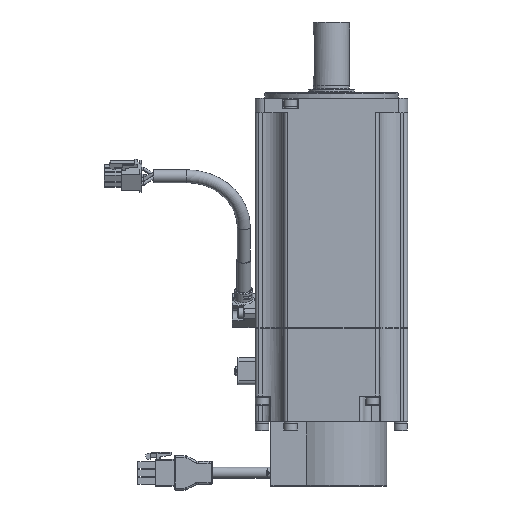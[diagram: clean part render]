
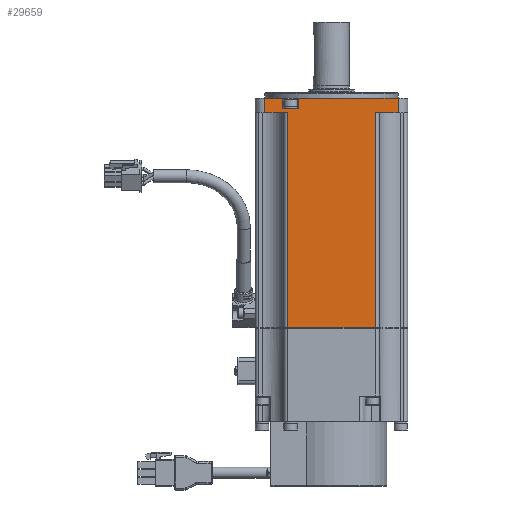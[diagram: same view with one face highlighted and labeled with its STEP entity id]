
A CAD part, left-side view. The second image highlights one B-rep face of the part: STEP entity #29659.
In plain terms, the highlighted planar face has unit normal (-1, 0, 0).
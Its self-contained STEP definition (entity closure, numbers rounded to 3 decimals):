
#1074=PLANE('',#31786);
#2775=FACE_OUTER_BOUND('',#4417,.T.);
#4417=EDGE_LOOP('',(#23205,#23206,#23207,#23208,#23209,#23210,#23211,#23212,
#23213,#23214,#23215,#23216));
#7707=LINE('',#50182,#10384);
#7710=LINE('',#50190,#10387);
#7739=LINE('',#50284,#10416);
#7740=LINE('',#50287,#10417);
#7741=LINE('',#50289,#10418);
#7742=LINE('',#50291,#10419);
#7743=LINE('',#50293,#10420);
#7744=LINE('',#50295,#10421);
#7745=LINE('',#50296,#10422);
#7746=LINE('',#50298,#10423);
#7747=LINE('',#50300,#10424);
#7748=LINE('',#50301,#10425);
#10384=VECTOR('',#37123,10.);
#10387=VECTOR('',#37128,10.);
#10416=VECTOR('',#37225,10.);
#10417=VECTOR('',#37228,10.);
#10418=VECTOR('',#37229,10.);
#10419=VECTOR('',#37230,10.);
#10420=VECTOR('',#37231,10.);
#10421=VECTOR('',#37232,10.);
#10422=VECTOR('',#37233,10.);
#10423=VECTOR('',#37234,10.);
#10424=VECTOR('',#37235,10.);
#10425=VECTOR('',#37236,10.);
#13366=VERTEX_POINT('',#50179);
#13367=VERTEX_POINT('',#50181);
#13370=VERTEX_POINT('',#50187);
#13371=VERTEX_POINT('',#50189);
#13402=VERTEX_POINT('',#50282);
#13403=VERTEX_POINT('',#50286);
#13404=VERTEX_POINT('',#50288);
#13405=VERTEX_POINT('',#50290);
#13406=VERTEX_POINT('',#50292);
#13407=VERTEX_POINT('',#50294);
#13408=VERTEX_POINT('',#50297);
#13409=VERTEX_POINT('',#50299);
#16856=EDGE_CURVE('',#13367,#13366,#7707,.T.);
#16860=EDGE_CURVE('',#13371,#13370,#7710,.T.);
#16908=EDGE_CURVE('',#13402,#13366,#7739,.T.);
#16909=EDGE_CURVE('',#13402,#13403,#7740,.T.);
#16910=EDGE_CURVE('',#13403,#13404,#7741,.T.);
#16911=EDGE_CURVE('',#13404,#13405,#7742,.T.);
#16912=EDGE_CURVE('',#13405,#13406,#7743,.T.);
#16913=EDGE_CURVE('',#13406,#13407,#7744,.T.);
#16914=EDGE_CURVE('',#13407,#13371,#7745,.T.);
#16915=EDGE_CURVE('',#13370,#13408,#7746,.T.);
#16916=EDGE_CURVE('',#13408,#13409,#7747,.T.);
#16917=EDGE_CURVE('',#13409,#13367,#7748,.T.);
#23205=ORIENTED_EDGE('',*,*,#16909,.T.);
#23206=ORIENTED_EDGE('',*,*,#16910,.T.);
#23207=ORIENTED_EDGE('',*,*,#16911,.T.);
#23208=ORIENTED_EDGE('',*,*,#16912,.T.);
#23209=ORIENTED_EDGE('',*,*,#16913,.T.);
#23210=ORIENTED_EDGE('',*,*,#16914,.T.);
#23211=ORIENTED_EDGE('',*,*,#16860,.T.);
#23212=ORIENTED_EDGE('',*,*,#16915,.T.);
#23213=ORIENTED_EDGE('',*,*,#16916,.T.);
#23214=ORIENTED_EDGE('',*,*,#16917,.T.);
#23215=ORIENTED_EDGE('',*,*,#16856,.T.);
#23216=ORIENTED_EDGE('',*,*,#16908,.F.);
#29659=ADVANCED_FACE('',(#2775),#1074,.T.);
#31786=AXIS2_PLACEMENT_3D('',#50285,#37226,#37227);
#37123=DIRECTION('',(0.,1.,0.));
#37128=DIRECTION('',(0.,1.,0.));
#37225=DIRECTION('',(0.,0.,1.));
#37226=DIRECTION('center_axis',(-1.,0.,0.));
#37227=DIRECTION('ref_axis',(0.,0.,1.));
#37228=DIRECTION('',(0.,-1.,0.));
#37229=DIRECTION('',(0.,0.,-1.));
#37230=DIRECTION('',(0.,-1.,0.));
#37231=DIRECTION('',(0.,0.,1.));
#37232=DIRECTION('',(0.,-1.,0.));
#37233=DIRECTION('',(0.,0.,1.));
#37234=DIRECTION('',(0.,0.,-1.));
#37235=DIRECTION('',(0.,1.,0.));
#37236=DIRECTION('',(0.,0.,1.));
#50179=CARTESIAN_POINT('',(-40.,35.,0.));
#50181=CARTESIAN_POINT('',(-40.,25.4,0.));
#50182=CARTESIAN_POINT('',(-40.,25.4,0.));
#50187=CARTESIAN_POINT('',(-40.,17.4,0.));
#50189=CARTESIAN_POINT('',(-40.,-35.,0.));
#50190=CARTESIAN_POINT('',(-40.,-35.,0.));
#50282=CARTESIAN_POINT('',(-40.,35.,-7.5));
#50284=CARTESIAN_POINT('',(-40.,35.,-7.5));
#50285=CARTESIAN_POINT('Origin',(-40.,-35.01,-60.2));
#50286=CARTESIAN_POINT('',(-40.,23.,-7.5));
#50287=CARTESIAN_POINT('',(-40.,35.,-7.5));
#50288=CARTESIAN_POINT('',(-40.,23.,-120.4));
#50289=CARTESIAN_POINT('',(-40.,23.,-7.5));
#50290=CARTESIAN_POINT('',(-40.,-23.,-120.4));
#50291=CARTESIAN_POINT('',(-40.,23.,-120.4));
#50292=CARTESIAN_POINT('',(-40.,-23.,-7.5));
#50293=CARTESIAN_POINT('',(-40.,-23.,-120.4));
#50294=CARTESIAN_POINT('',(-40.,-35.,-7.5));
#50295=CARTESIAN_POINT('',(-40.,-23.,-7.5));
#50296=CARTESIAN_POINT('',(-40.,-35.,-7.5));
#50297=CARTESIAN_POINT('',(-40.,17.4,-5.5));
#50298=CARTESIAN_POINT('',(-40.,17.4,0.));
#50299=CARTESIAN_POINT('',(-40.,25.4,-5.5));
#50300=CARTESIAN_POINT('',(-40.,17.4,-5.5));
#50301=CARTESIAN_POINT('',(-40.,25.4,-5.5));
